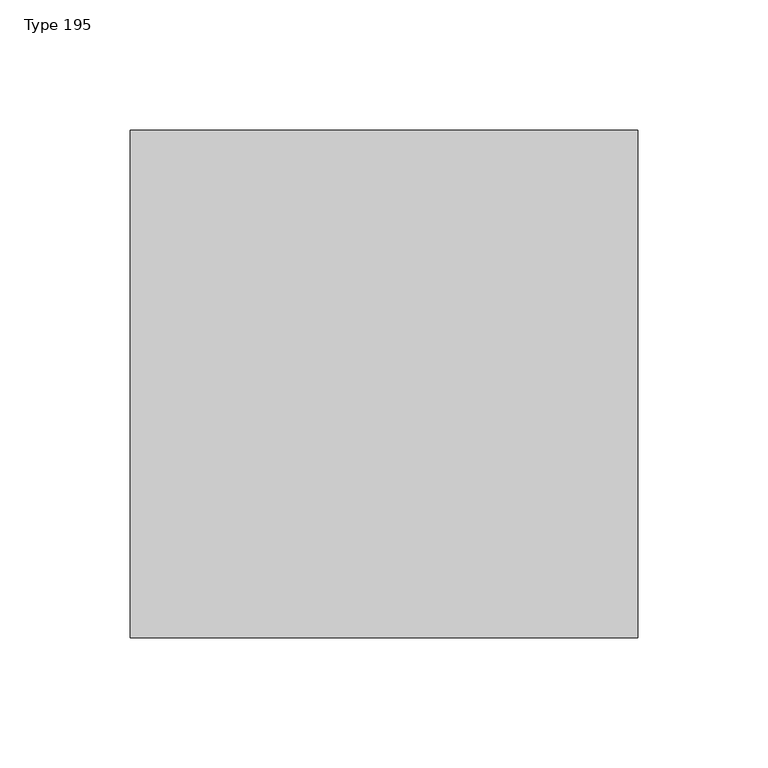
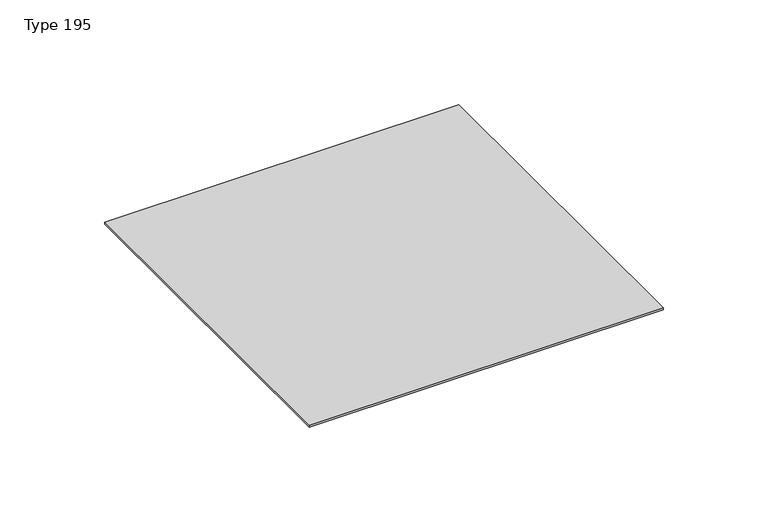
"""IFC4 building model written with IfcOpenShell, lengths in millimetres: proxy geometry, Dafa_Hi-tack_Cable_Collar : Type 195."""

from ifc_helpers import new_model, si_unit, origin, origin_with_axes, place, context, project, spatial, polyline, outline, extrude, source, transform, mapped, element, save


def type_195_70466056(model_context):
    return source(origin(), model_context, "Body", "SweptSolid", [
        extrude(outline(polyline([(97.5, 97.5), (97.5, -97.5), (-97.5, -97.5), (-97.5, 97.5), (97.5, 97.5)])), origin_with_axes(), (0.0, 0.0, 1.0), 1.2),
    ])


if __name__ == "__main__":
    model = new_model("IFC4")
    model_context = context("Model", 3, world=origin())
    ifc_project = project(units=[si_unit("LENGTHUNIT", "METRE", prefix="MILLI")], contexts=[model_context])
    site = spatial("IfcSite", under=ifc_project)
    building = spatial("IfcBuilding", under=site)
    placement = place(None, origin())
    type_195_shape = type_195_70466056(model_context)
    element("IfcBuildingElementProxy", 1, Name="Dafa_Hi-tack_Cable_Collar : Type 195", ObjectType="Dafa_Hi-tack_Cable_Collar : Type 195", at=placement, inside=building, context=model_context, shape_type="MappedRepresentation", body=[
        mapped(type_195_shape, transform((0.0, 0.0, 0.0), x_axis=(1.0, 0.0, 0.0), y_axis=(0.0, 1.0, 0.0), z_axis=(0.0, 0.0, 1.0))),
    ])
    save(model, "model.ifc")
